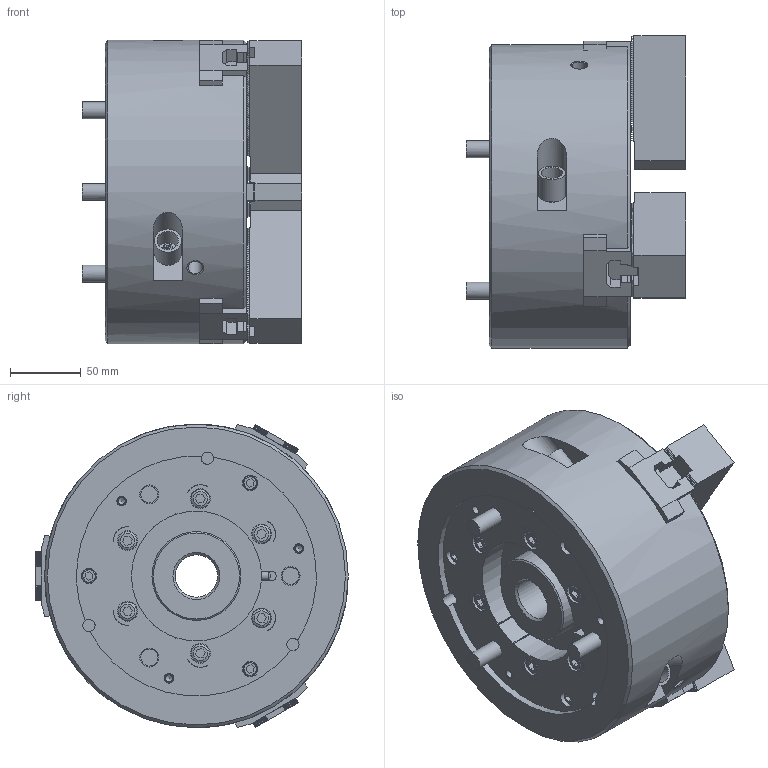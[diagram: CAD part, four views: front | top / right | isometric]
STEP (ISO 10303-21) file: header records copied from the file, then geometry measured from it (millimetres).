
FILE_DESCRIPTION (( 'STEP AP214' ), '1' );
FILE_NAME ('BL-208_61P265081-4_UC.STEP', '2020-03-24T02:47:56', ( '' ), ( '' ), 'SwSTEP 2.0', 'SolidWorks 2017', '' );
FILE_SCHEMA (( 'AUTOMOTIVE_DESIGN' ));
Length unit declared in the file: millimetre
Products named in the file (18): B傾僫僣僉 M12亊302_~30; Part1^61P228791-4_僋儈僞僥_^_e_棉太倌I佱UA; 61P417260-1_俿僫僢僩_b_g; 61P304291-3_ソフトジョー_W_‡_[_ﾃﾞﾌｫﾙﾄ_ATI≪UA; Part1^61P228791-4_クミタテ_^_e; BL-208_61P265081-4_UC; 61P417260-1_俿僫僢僩_b_g_棉太倌I佱UA; 61P304291-3_ソフトジョー_W_‡_[; B傾僫僣僉 M12亊302_~30_棉太倌TI佱UA
Assembly tree (13 placements, depth 2):
  B傾僫僣僉 M12亊302_~30
  61P417260-1_俿僫僢僩_b_g
  Part1^61P228791-4_クミタテ_^_e
  B傾僫僣僉 M12亊302_~30
  BL-208_61P265081-4_UC
    61P417260-1_俿僫僢僩_b_g_棉太倌I佱UA  x3
    61P304291-3_ソフトジョー_W_‡_[_ﾃﾞﾌｫﾙﾄ_ATI≪UA  x3
    B傾僫僣僉 M12亊302_~30_棉太倌TI佱UA  x6
    Part1^61P228791-4_僋儈僞僥_^_e_棉太倌I佱UA
Bounding box: 155.2 x 221.27 x 215 mm (x, y, z)
Volume: 3579557.9 mm3; surface area: 312680.4 mm2
Topology: 13 solids, 28 shells, 3412 faces, 9653 edges, 6419 vertices
Faces by surface type: plane 2466, cylinder 776, bspline 107, cone 50, sphere 7, torus 6
Full cylindrical faces by diameter (mm): 1.9 x3, 5 x3, 6 x4, 8 x6, 8.6 x3, 9 x11, 10 x8, 11 x3, 12 x15, 13 x12, 13.5 x3, 14 x6, 15 x3, 17.5 x3, 18 x12, 19 x9, 20 x3, 30 x1, 45 x1, 48.6 x1, 55.5 x1, 63 x1, 215 x1
Entity records: 74498 total; most frequent: CARTESIAN_POINT 18658, ORIENTED_EDGE 12198, DIRECTION 10214, EDGE_CURVE 6099, VECTOR 4934, LINE 4934, VERTEX_POINT 4115, AXIS2_PLACEMENT_3D 2640
